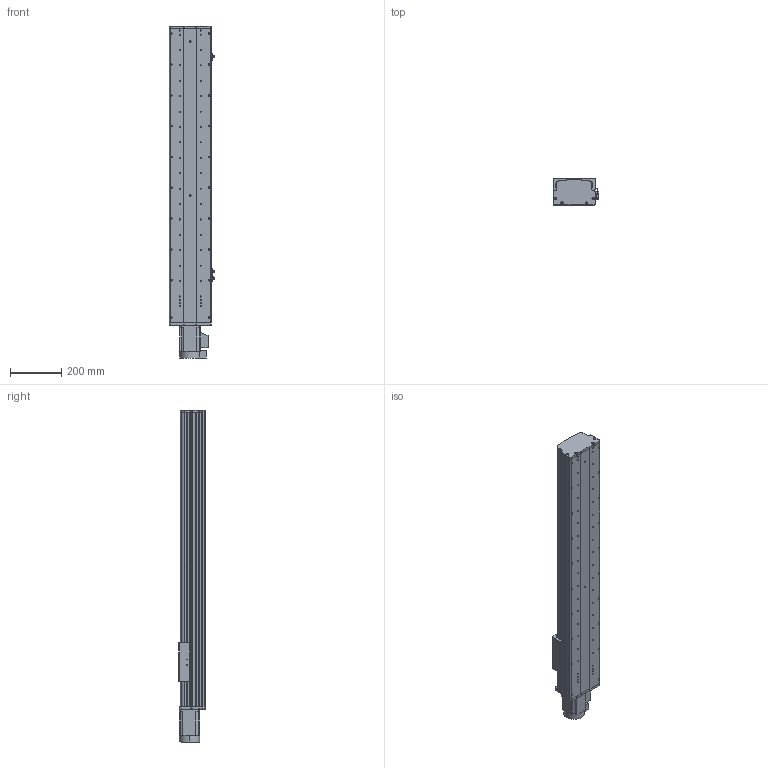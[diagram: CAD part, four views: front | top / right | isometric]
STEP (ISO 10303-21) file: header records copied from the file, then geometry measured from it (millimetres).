
FILE_DESCRIPTION (( 'STEP AP214' ), '1' );
FILE_NAME ('KSD165S-S850-MN-CM.STEP', '2017-08-07T08:17:12', ( '微软用户' ), ( '微软中国' ), 'SwSTEP 2.0', 'SolidWorks 2014', '' );
FILE_SCHEMA (( 'AUTOMOTIVE_DESIGN' ));
Length unit declared in the file: millimetre
Products named in the file (12): KSD165模组-防尘盖1-850行程-直连不带电机座; KSD165模组底板-850行程-直连不带电机座; 拸秶雄ん750W侜督萇儂; KSD165模组-直连不带电机座电机连接板; KSD165耀郪-佪裝-滅袉菜-3 -; C44ㄜ1912WP; 覜茼え68遵圉猾敕; U倰嫖萇假蚾璃; U倰嫖萇EEㄜSX672; KSD165耀郪-綴傷啣1; KSD165模组-丝杆滑动座-最新版; KSD165S-S850-MN-CM
Assembly tree (15 placements, depth 2):
  KSD165S-S850-MN-CM
    KSD165模组-丝杆滑动座-最新版
    KSD165耀郪-綴傷啣1
    U倰嫖萇EEㄜSX672  x3
    U倰嫖萇假蚾璃  x3
    覜茼え68遵圉猾敕
    C44ㄜ1912WP
    KSD165耀郪-佪裝-滅袉菜-3 -
    KSD165模组-直连不带电机座电机连接板
    拸秶雄ん750W侜督萇儂
    KSD165模组底板-850行程-直连不带电机座
    KSD165模组-防尘盖1-850行程-直连不带电机座
Bounding box: 178.7 x 104 x 1293 mm (x, y, z)
Volume: 7189585.3 mm3; surface area: 1591054.1 mm2
Topology: 16 solids, 16 shells, 1241 faces, 3478 edges, 2257 vertices
Faces by surface type: cylinder 667, plane 497, cone 77
Entity records: 39487 total; most frequent: CARTESIAN_POINT 8799, DIRECTION 5863, ORIENTED_EDGE 5636, EDGE_CURVE 2818, AXIS2_PLACEMENT_3D 2209, VERTEX_POINT 1849, VECTOR 1445, LINE 1445
